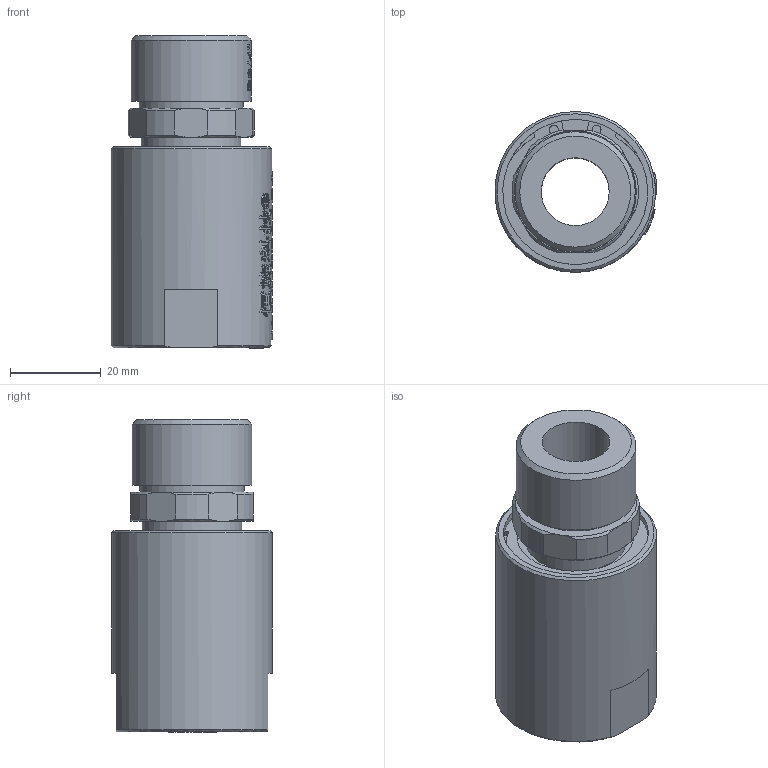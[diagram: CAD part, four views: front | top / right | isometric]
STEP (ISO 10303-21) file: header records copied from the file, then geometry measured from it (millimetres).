
FILE_DESCRIPTION(/* description */ (''),/* implementation_level */ '2;1');
FILE_NAME(/* name */ 'HYK0106(RH)-3D模型.stp',/* time_stamp */ '2025-07-09T09:33:26+08:00',/* author */ (''),/* organization */ (''),/* preprocessor_version */ 'ST-DEVELOPER v16.7',/* originating_system */ 'SIEMENS PLM Software NX 12.0',/* authorisation */ '');
FILE_SCHEMA (('AUTOMOTIVE_DESIGN { 1 0 10303 214 3 1 1 1 }'));
Length unit declared in the file: millimetre
Products named in the file (1): Admi1300D6723wdj
Bounding box: 35.74 x 35.5 x 69.1 mm (x, y, z)
Volume: 40011.7 mm3; surface area: 13769.5 mm2
Topology: 1 solids, 1 shells, 910 faces, 2514 edges, 1671 vertices
Faces by surface type: extrusion 474, plane 335, cylinder 47, bspline 38, cone 16
Full cylindrical faces by diameter (mm): 2 x2, 15 x1, 22 x1, 23 x1, 24 x1, 26.5 x1, 32 x1, 33.3 x1, 35.5 x1
Entity records: 36850 total; most frequent: CARTESIAN_POINT 17663, ORIENTED_EDGE 4990, EDGE_CURVE 2495, B_SPLINE_CURVE_WITH_KNOTS 2427, DIRECTION 1898, VERTEX_POINT 1664, EDGE_LOOP 995, ADVANCED_FACE 910
